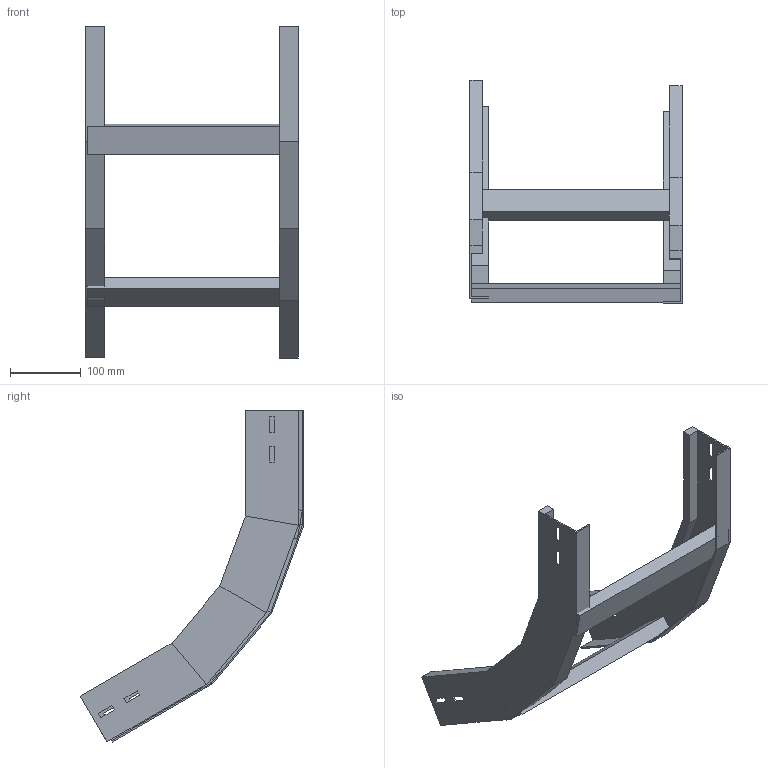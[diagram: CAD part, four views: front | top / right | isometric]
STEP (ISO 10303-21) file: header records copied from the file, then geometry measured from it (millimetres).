
FILE_DESCRIPTION (( 'STEP AP214' ), '1' );
FILE_NAME ('A2X40B3C300XX.step', '2025-04-02T09:26:45', ( '' ), ( '' ), 'SwSTEP 2.0', 'SolidWorks 2023', '' );
FILE_SCHEMA (( 'AUTOMOTIVE_DESIGN' ));
Length unit declared in the file: millimetre
Products named in the file (3): A2X40B3C300XX; TRAVERSINO_300; LONGH.SALITA_60°_H75_R300
Assembly tree (4 placements, depth 2):
  A2X40B3C300XX
    LONGH.SALITA_60°_H75_R300  x2
    TRAVERSINO_300  x2
Bounding box: 300 x 315.85 x 469.15 mm (x, y, z)
Volume: 899106 mm3; surface area: 336103.6 mm2
Topology: 4 solids, 4 shells, 112 faces, 264 edges, 160 vertices
Faces by surface type: plane 112
Entity records: 1664 total; most frequent: CARTESIAN_POINT 275, ORIENTED_EDGE 264, DIRECTION 258, LINE 132, VECTOR 132, EDGE_CURVE 132, VERTEX_POINT 80, EDGE_LOOP 64
